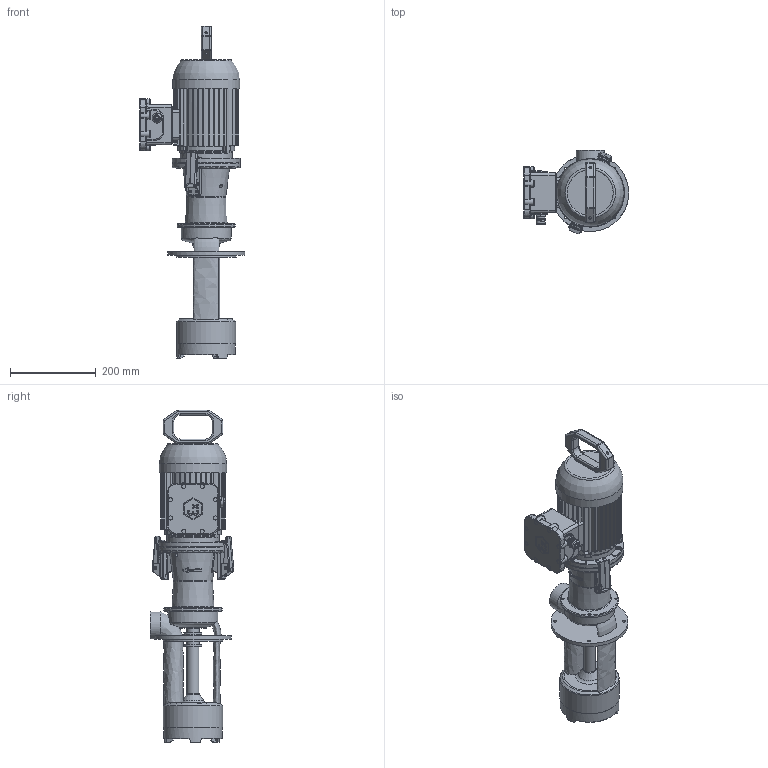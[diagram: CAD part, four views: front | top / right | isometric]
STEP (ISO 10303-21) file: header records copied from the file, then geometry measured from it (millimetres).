
FILE_DESCRIPTION(/* description */ ('Unknown'),/* implementation_level */ '2;1');
FILE_NAME(/* name */ 'EP EX 152-240',/* time_stamp */ '2025-06-02T13:44:38+03:00',/* author */ ('Unknown'),/* organization */ ('Unknown'),/* preprocessor_version */ 'ST-DEVELOPER v16.7',/* originating_system */ 'DEX',/* authorisation */ $);
FILE_SCHEMA (('AUTOMOTIVE_DESIGN {1 0 10303 214 3 1 1}'));
Length unit declared in the file: millimetre
Products named in the file (1): EP EX 152-240
Bounding box: 246.5 x 195.43 x 776.45 mm (x, y, z)
Volume: 8114474.5 mm3; surface area: 713396 mm2
Topology: 1 solids, 22 shells, 2297 faces, 6058 edges, 3779 vertices
Faces by surface type: cylinder 802, plane 730, bspline 404, torus 201, cone 113, sphere 47
Full cylindrical faces by diameter (mm): 3 x12, 3.242 x16, 4 x10, 4.134 x24, 4.9 x4, 5 x90, 5.3 x4, 5.5 x2, 5.7 x8, 6 x8, 7 x8, 8 x3, 9.5 x8, 12 x1, 13 x2, 13.962 x1, 16 x1, 18.348 x1, 18.376 x5, 19 x1, 20 x2, 21.8 x2, 28 x1, 29 x3, 30 x1, 42 x3, 44 x1, 48 x1, 62 x1, 73 x1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
Entity records: 109772 total; most frequent: CARTESIAN_POINT 43440, ORIENTED_EDGE 10866, DIRECTION 9982, EDGE_CURVE 5433, AXIS2_PLACEMENT_3D 4017, VERTEX_POINT 3586, FACE_BOUND 2697, EDGE_LOOP 2689
